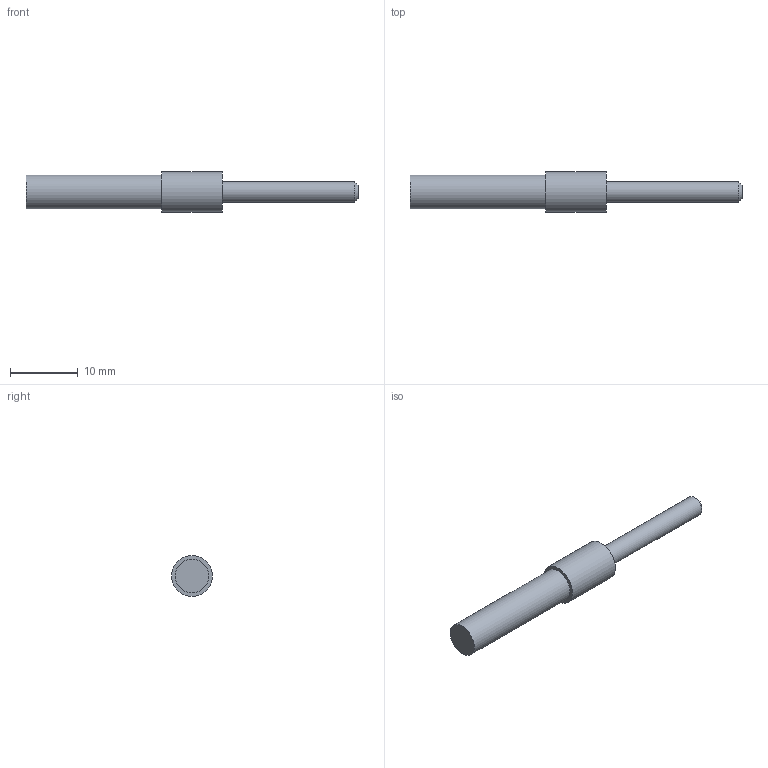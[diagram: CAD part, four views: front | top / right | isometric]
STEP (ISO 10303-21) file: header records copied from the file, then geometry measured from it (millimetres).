
FILE_DESCRIPTION(/* description */ (''),/* implementation_level */ '2;1');
FILE_NAME(/* name */ 'C:\Evgeny\Noga Works\_Noga MT Brush\solidcam\END-BRUSH D5 UF4150.stp',/* time_stamp */ '2025-03-23T08:36:53+02:00',/* author */ ('evgeny'),/* organization */ (''),/* preprocessor_version */ 'ST-DEVELOPER v20',/* originating_system */ 'Autodesk Inventor 2022',/* authorisation */ '');
FILE_SCHEMA (('AUTOMOTIVE_DESIGN { 1 0 10303 214 3 1 1 }'));
Length unit declared in the file: millimetre
Products named in the file (1): END-BRUSH D5 UF4150
Bounding box: 49 x 6 x 6 mm (x, y, z)
Volume: 787.5 mm3; surface area: 765 mm2
Topology: 2 solids, 2 shells, 9 faces, 12 edges, 8 vertices
Faces by surface type: plane 5, cylinder 3, cone 1
Full cylindrical faces by diameter (mm): 3 x1, 5 x1, 6 x1
Entity records: 243 total; most frequent: DIRECTION 40, CARTESIAN_POINT 30, ORIENTED_EDGE 24, AXIS2_PLACEMENT_3D 18, EDGE_CURVE 12, EDGE_LOOP 10, FACE_OUTER_BOUND 9, ADVANCED_FACE 9
